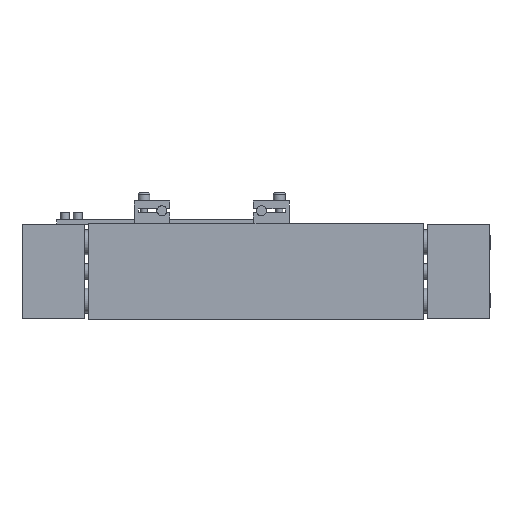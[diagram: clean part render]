
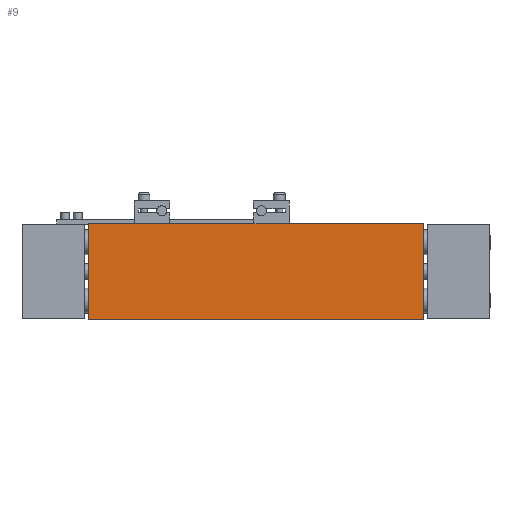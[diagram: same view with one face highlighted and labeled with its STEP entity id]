
A CAD part, front view. The second image highlights one B-rep face of the part: STEP entity #9.
In plain terms, the highlighted planar face has unit normal (0, -1, 0).
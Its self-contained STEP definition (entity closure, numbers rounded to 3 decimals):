
#3 = EDGE_CURVE ( 'NONE', #60, #7, #2584, .T. ) ;
#7 = VERTEX_POINT ( 'NONE', #2661 ) ;
#9 = ADVANCED_FACE ( 'NONE', ( #2646 ), #2630, .F. ) ;
#10 = EDGE_LOOP ( 'NONE', ( #11, #43, #27, #16 ) ) ;
#11 = ORIENTED_EDGE ( 'NONE', *, *, #57, .T. ) ;
#15 = EDGE_CURVE ( 'NONE', #268, #60, #2770, .T. ) ;
#16 = ORIENTED_EDGE ( 'NONE', *, *, #50, .T. ) ;
#27 = ORIENTED_EDGE ( 'NONE', *, *, #15, .F. ) ;
#43 = ORIENTED_EDGE ( 'NONE', *, *, #3, .F. ) ;
#49 = VERTEX_POINT ( 'NONE', #2638 ) ;
#50 = EDGE_CURVE ( 'NONE', #268, #49, #2607, .T. ) ;
#57 = EDGE_CURVE ( 'NONE', #49, #7, #2652, .T. ) ;
#60 = VERTEX_POINT ( 'NONE', #2619 ) ;
#268 = VERTEX_POINT ( 'NONE', #2860 ) ;
#1406 = VECTOR ( 'NONE', #1969, 1000. ) ;
#1969 = DIRECTION ( 'NONE',  ( 0., 0., -1. ) ) ;
#2556 = CARTESIAN_POINT ( 'NONE',  ( 67.056, -25.4, 19.05 ) ) ;
#2584 = LINE ( 'NONE', #2556, #1406 ) ;
#2601 = VECTOR ( 'NONE', #2691, 1000. ) ;
#2604 = DIRECTION ( 'NONE',  ( 0., 0., -1. ) ) ;
#2605 = VECTOR ( 'NONE', #2604, 1000. ) ;
#2606 = CARTESIAN_POINT ( 'NONE',  ( -67.056, -25.4, 19.05 ) ) ;
#2607 = LINE ( 'NONE', #2606, #2605 ) ;
#2619 = CARTESIAN_POINT ( 'NONE',  ( 67.056, -25.4, 19.05 ) ) ;
#2621 = DIRECTION ( 'NONE',  ( 1., 0., 0. ) ) ;
#2627 = DIRECTION ( 'NONE',  ( 0., 0., 1. ) ) ;
#2630 = PLANE ( 'NONE',  #2786 ) ;
#2632 = DIRECTION ( 'NONE',  ( 0., 1., 0. ) ) ;
#2633 = CARTESIAN_POINT ( 'NONE',  ( -67.056, -25.4, 19.05 ) ) ;
#2638 = CARTESIAN_POINT ( 'NONE',  ( -67.056, -25.4, -19.05 ) ) ;
#2645 = CARTESIAN_POINT ( 'NONE',  ( -67.056, -25.4, -19.05 ) ) ;
#2646 = FACE_OUTER_BOUND ( 'NONE', #10, .T. ) ;
#2647 = CARTESIAN_POINT ( 'NONE',  ( -67.056, -25.4, 19.05 ) ) ;
#2652 = LINE ( 'NONE', #2645, #2745 ) ;
#2661 = CARTESIAN_POINT ( 'NONE',  ( 67.056, -25.4, -19.05 ) ) ;
#2691 = DIRECTION ( 'NONE',  ( 1., 0., 0. ) ) ;
#2745 = VECTOR ( 'NONE', #2621, 1000. ) ;
#2770 = LINE ( 'NONE', #2647, #2601 ) ;
#2786 = AXIS2_PLACEMENT_3D ( 'NONE', #2633, #2632, #2627 ) ;
#2860 = CARTESIAN_POINT ( 'NONE',  ( -67.056, -25.4, 19.05 ) ) ;
